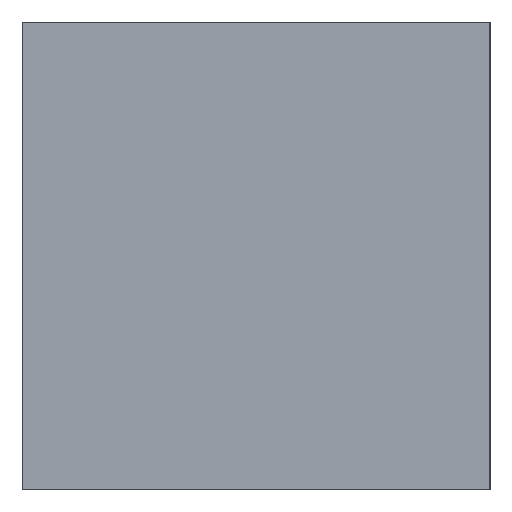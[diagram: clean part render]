
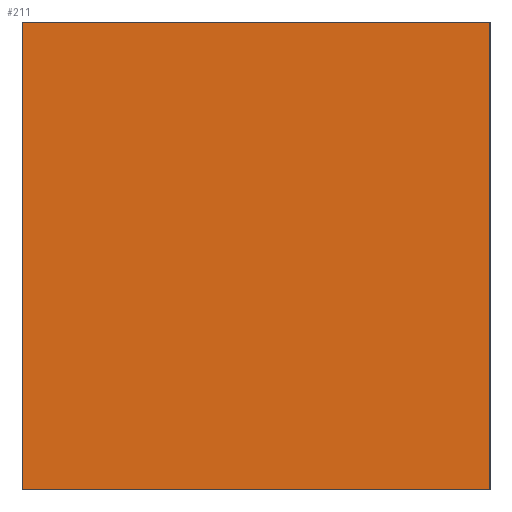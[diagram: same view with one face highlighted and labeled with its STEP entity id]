
A CAD part, left-side view. The second image highlights one B-rep face of the part: STEP entity #211.
In plain terms, the highlighted planar face has unit normal (-1, 0, 0).
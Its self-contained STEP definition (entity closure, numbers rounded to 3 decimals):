
#191=AXIS2_PLACEMENT_3D('Plane Axis2P3D',#188,#189,#190) ;
#108=CARTESIAN_POINT('Vertex',(-32.5,10.,0.)) ;
#111=CARTESIAN_POINT('Line Origine',(-32.5,0.,0.)) ;
#115=CARTESIAN_POINT('Vertex',(-32.5,-10.,0.)) ;
#160=CARTESIAN_POINT('Vertex',(-32.5,10.,-20.)) ;
#163=CARTESIAN_POINT('Line Origine',(-32.5,10.,-10.)) ;
#188=CARTESIAN_POINT('Axis2P3D Location',(-32.5,-10.,0.)) ;
#193=CARTESIAN_POINT('Line Origine',(-32.5,0.,-20.)) ;
#197=CARTESIAN_POINT('Vertex',(-32.5,-10.,-20.)) ;
#200=CARTESIAN_POINT('Line Origine',(-32.5,-10.,-10.)) ;
#112=DIRECTION('Vector Direction',(0.,1.,0.)) ;
#164=DIRECTION('Vector Direction',(0.,0.,-1.)) ;
#189=DIRECTION('Axis2P3D Direction',(-1.,0.,0.)) ;
#190=DIRECTION('Axis2P3D XDirection',(0.,1.,0.)) ;
#194=DIRECTION('Vector Direction',(0.,1.,0.)) ;
#201=DIRECTION('Vector Direction',(0.,0.,-1.)) ;
#113=VECTOR('Line Direction',#112,1.) ;
#165=VECTOR('Line Direction',#164,1.) ;
#195=VECTOR('Line Direction',#194,1.) ;
#202=VECTOR('Line Direction',#201,1.) ;
#206=ORIENTED_EDGE('',*,*,#199,.T.) ;
#207=ORIENTED_EDGE('',*,*,#204,.F.) ;
#208=ORIENTED_EDGE('',*,*,#117,.F.) ;
#209=ORIENTED_EDGE('',*,*,#167,.T.) ;
#211=ADVANCED_FACE('PartBody',(#210),#192,.T.) ;
#117=EDGE_CURVE('',#109,#116,#114,.F.) ;
#167=EDGE_CURVE('',#109,#161,#166,.T.) ;
#199=EDGE_CURVE('',#161,#198,#196,.F.) ;
#204=EDGE_CURVE('',#116,#198,#203,.T.) ;
#205=EDGE_LOOP('',(#206,#207,#208,#209)) ;
#210=FACE_OUTER_BOUND('',#205,.T.) ;
#114=LINE('Line',#111,#113) ;
#166=LINE('Line',#163,#165) ;
#196=LINE('Line',#193,#195) ;
#203=LINE('Line',#200,#202) ;
#192=PLANE('',#191) ;
#109=VERTEX_POINT('',#108) ;
#116=VERTEX_POINT('',#115) ;
#161=VERTEX_POINT('',#160) ;
#198=VERTEX_POINT('',#197) ;
